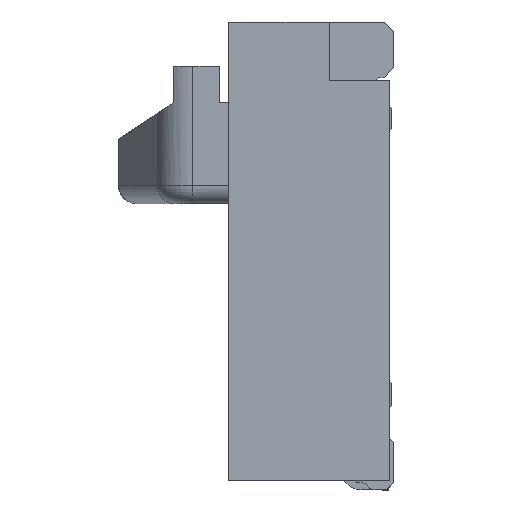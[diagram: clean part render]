
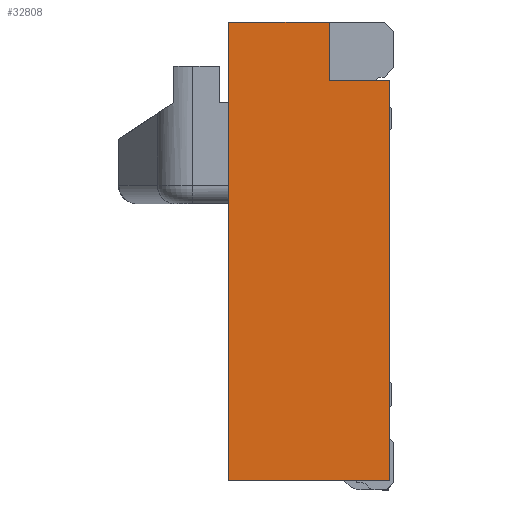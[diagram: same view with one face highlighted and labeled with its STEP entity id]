
A CAD part, left-side view. The second image highlights one B-rep face of the part: STEP entity #32808.
In plain terms, the highlighted planar face has unit normal (-1, 0, 0).
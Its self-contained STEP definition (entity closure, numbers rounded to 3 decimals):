
#5926 = CARTESIAN_POINT ( 'NONE',  ( -2.7, 0.9, 0. ) ) ;
#5960 = LINE ( 'NONE', #6011, #6010 ) ;
#6009 = DIRECTION ( 'NONE',  ( 0., -1., 0. ) ) ;
#6010 = VECTOR ( 'NONE', #6009, 1000. ) ;
#6011 = CARTESIAN_POINT ( 'NONE',  ( -2.7, 0.9, 0. ) ) ;
#6013 = CARTESIAN_POINT ( 'NONE',  ( -2.7, 0.35, 0. ) ) ;
#7094 = DIRECTION ( 'NONE',  ( 0., 1., 0. ) ) ;
#7095 = VECTOR ( 'NONE', #7094, 1000. ) ;
#7096 = CARTESIAN_POINT ( 'NONE',  ( -2.7, 0.02, -2.5 ) ) ;
#7097 = LINE ( 'NONE', #7096, #7095 ) ;
#7103 = CARTESIAN_POINT ( 'NONE',  ( -2.7, 0.02, -2.5 ) ) ;
#7151 = CARTESIAN_POINT ( 'NONE',  ( -2.7, 0.9, -2.5 ) ) ;
#7413 = LINE ( 'NONE', #7419, #7470 ) ;
#7419 = CARTESIAN_POINT ( 'NONE',  ( -2.7, 0.35, 0. ) ) ;
#7423 = PLANE ( 'NONE',  #7467 ) ;
#7441 = DIRECTION ( 'NONE',  ( 0., 1., 0. ) ) ;
#7442 = VECTOR ( 'NONE', #7441, 1000. ) ;
#7443 = CARTESIAN_POINT ( 'NONE',  ( -2.7, 0.02, -0.32 ) ) ;
#7444 = LINE ( 'NONE', #7443, #7442 ) ;
#7445 = DIRECTION ( 'NONE',  ( 0., 0., 1. ) ) ;
#7446 = VECTOR ( 'NONE', #7445, 1000. ) ;
#7447 = LINE ( 'NONE', #7451, #7446 ) ;
#7448 = DIRECTION ( 'NONE',  ( 0., 0., 1. ) ) ;
#7451 = CARTESIAN_POINT ( 'NONE',  ( -2.7, 0.9, 0. ) ) ;
#7452 = CARTESIAN_POINT ( 'NONE',  ( -2.7, 0.02, -0.32 ) ) ;
#7453 = CARTESIAN_POINT ( 'NONE',  ( -2.7, 0.9, -2.4 ) ) ;
#7458 = DIRECTION ( 'NONE',  ( 1., 0., 0. ) ) ;
#7459 = FACE_OUTER_BOUND ( 'NONE', #32740, .T. ) ;
#7464 = CARTESIAN_POINT ( 'NONE',  ( -2.7, 0.35, -0.32 ) ) ;
#7467 = AXIS2_PLACEMENT_3D ( 'NONE', #7453, #7458, #7448 ) ;
#7469 = DIRECTION ( 'NONE',  ( 0., 0., 1. ) ) ;
#7470 = VECTOR ( 'NONE', #7469, 1000. ) ;
#7492 = DIRECTION ( 'NONE',  ( 0., 0., -1. ) ) ;
#7493 = VECTOR ( 'NONE', #7492, 1000. ) ;
#7495 = LINE ( 'NONE', #7504, #7493 ) ;
#7504 = CARTESIAN_POINT ( 'NONE',  ( -2.7, 0.02, -2.5 ) ) ;
#31307 = VERTEX_POINT ( 'NONE', #5926 ) ;
#31313 = EDGE_CURVE ( 'NONE', #31307, #31318, #5960, .T. ) ;
#31318 = VERTEX_POINT ( 'NONE', #6013 ) ;
#32459 = VERTEX_POINT ( 'NONE', #7103 ) ;
#32466 = EDGE_CURVE ( 'NONE', #32459, #32479, #7097, .T. ) ;
#32479 = VERTEX_POINT ( 'NONE', #7151 ) ;
#32740 = EDGE_LOOP ( 'NONE', ( #32806, #32807, #32833, #32817, #32812, #32804 ) ) ;
#32795 = EDGE_CURVE ( 'NONE', #32814, #31318, #7413, .T. ) ;
#32804 = ORIENTED_EDGE ( 'NONE', *, *, #32795, .T. ) ;
#32806 = ORIENTED_EDGE ( 'NONE', *, *, #31313, .F. ) ;
#32807 = ORIENTED_EDGE ( 'NONE', *, *, #32809, .F. ) ;
#32808 = ADVANCED_FACE ( 'NONE', ( #7459 ), #7423, .F. ) ;
#32809 = EDGE_CURVE ( 'NONE', #32479, #31307, #7447, .T. ) ;
#32812 = ORIENTED_EDGE ( 'NONE', *, *, #32816, .T. ) ;
#32814 = VERTEX_POINT ( 'NONE', #7464 ) ;
#32816 = EDGE_CURVE ( 'NONE', #32825, #32814, #7444, .T. ) ;
#32817 = ORIENTED_EDGE ( 'NONE', *, *, #32831, .F. ) ;
#32825 = VERTEX_POINT ( 'NONE', #7452 ) ;
#32831 = EDGE_CURVE ( 'NONE', #32825, #32459, #7495, .T. ) ;
#32833 = ORIENTED_EDGE ( 'NONE', *, *, #32466, .F. ) ;
